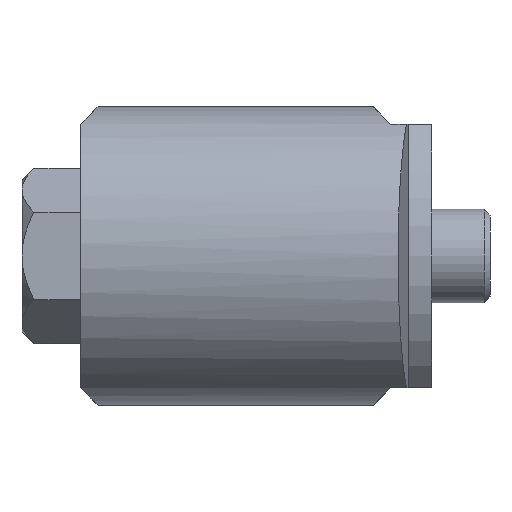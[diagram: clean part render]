
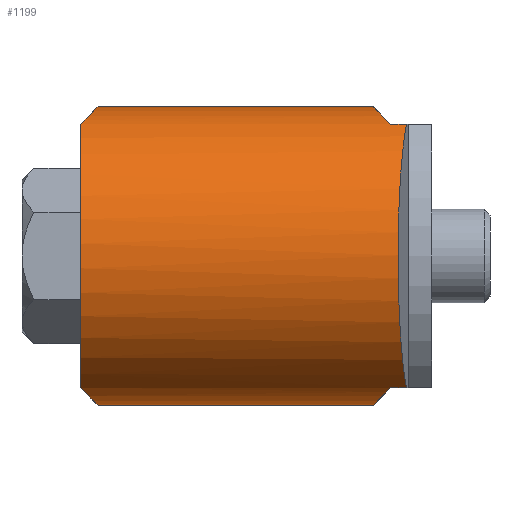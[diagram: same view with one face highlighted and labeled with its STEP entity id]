
A CAD part, left-side view. The second image highlights one B-rep face of the part: STEP entity #1199.
In plain terms, the highlighted cylindrical face has radius 12.75 mm (diameter 25.5 mm), a partial arc.
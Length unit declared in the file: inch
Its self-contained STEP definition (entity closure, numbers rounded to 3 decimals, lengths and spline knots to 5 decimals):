
#36=ELLIPSE('',#1305,0.70989,0.50197);
#37=ELLIPSE('',#1308,0.70989,0.50197);
#38=ELLIPSE('',#1311,0.70989,0.50197);
#39=ELLIPSE('',#1313,0.70989,0.50197);
#40=ELLIPSE('',#1317,0.50473,0.50197);
#69=LINE('',#1885,#134);
#82=LINE('',#1915,#147);
#91=LINE('',#1940,#156);
#92=LINE('',#1942,#157);
#134=VECTOR('',#1510,0.3937);
#147=VECTOR('',#1529,0.3937);
#156=VECTOR('',#1556,0.3937);
#157=VECTOR('',#1559,0.3937);
#196=CYLINDRICAL_SURFACE('',#1318,0.50197);
#230=FACE_OUTER_BOUND('',#303,.T.);
#303=EDGE_LOOP('',(#821,#822,#823,#824,#825,#826,#827,#828,#829,#830));
#388=CIRCLE('',#1319,0.50197);
#471=VERTEX_POINT('',#1875);
#472=VERTEX_POINT('',#1876);
#475=VERTEX_POINT('',#1884);
#480=VERTEX_POINT('',#1896);
#481=VERTEX_POINT('',#1897);
#488=VERTEX_POINT('',#1912);
#489=VERTEX_POINT('',#1914);
#491=VERTEX_POINT('',#1920);
#493=VERTEX_POINT('',#1926);
#494=VERTEX_POINT('',#1927);
#594=EDGE_CURVE('',#471,#472,#36,.T.);
#598=EDGE_CURVE('',#472,#475,#69,.T.);
#604=EDGE_CURVE('',#480,#481,#37,.T.);
#612=EDGE_CURVE('',#489,#488,#82,.T.);
#615=EDGE_CURVE('',#488,#491,#38,.T.);
#618=EDGE_CURVE('',#493,#494,#39,.T.);
#624=EDGE_CURVE('',#475,#489,#40,.T.);
#625=EDGE_CURVE('',#491,#493,#91,.T.);
#626=EDGE_CURVE('',#480,#494,#388,.T.);
#627=EDGE_CURVE('',#471,#481,#92,.T.);
#821=ORIENTED_EDGE('',*,*,#594,.T.);
#822=ORIENTED_EDGE('',*,*,#598,.T.);
#823=ORIENTED_EDGE('',*,*,#624,.T.);
#824=ORIENTED_EDGE('',*,*,#612,.T.);
#825=ORIENTED_EDGE('',*,*,#615,.T.);
#826=ORIENTED_EDGE('',*,*,#625,.T.);
#827=ORIENTED_EDGE('',*,*,#618,.T.);
#828=ORIENTED_EDGE('',*,*,#626,.F.);
#829=ORIENTED_EDGE('',*,*,#604,.T.);
#830=ORIENTED_EDGE('',*,*,#627,.F.);
#1199=ADVANCED_FACE('',(#230),#196,.T.);
#1305=AXIS2_PLACEMENT_3D('',#1877,#1503,#1504);
#1308=AXIS2_PLACEMENT_3D('',#1898,#1518,#1519);
#1311=AXIS2_PLACEMENT_3D('',#1921,#1534,#1535);
#1313=AXIS2_PLACEMENT_3D('',#1928,#1540,#1541);
#1317=AXIS2_PLACEMENT_3D('',#1938,#1552,#1553);
#1318=AXIS2_PLACEMENT_3D('',#1939,#1554,#1555);
#1319=AXIS2_PLACEMENT_3D('',#1941,#1557,#1558);
#1503=DIRECTION('center_axis',(0.,0.707,0.707));
#1504=DIRECTION('ref_axis',(0.,-0.707,0.707));
#1510=DIRECTION('',(0.,-1.,0.));
#1518=DIRECTION('center_axis',(0.,-0.707,0.707));
#1519=DIRECTION('ref_axis',(0.,0.707,0.707));
#1529=DIRECTION('',(0.,1.,0.));
#1534=DIRECTION('center_axis',(0.,0.707,-0.707));
#1535=DIRECTION('ref_axis',(0.,0.707,0.707));
#1540=DIRECTION('center_axis',(0.,-0.707,-0.707));
#1541=DIRECTION('ref_axis',(0.,-0.707,0.707));
#1552=DIRECTION('center_axis',(0.105,0.995,0.));
#1553=DIRECTION('ref_axis',(-0.995,0.105,0.));
#1554=DIRECTION('center_axis',(0.,-1.,0.));
#1555=DIRECTION('ref_axis',(0.,0.,1.));
#1556=DIRECTION('',(0.,1.,0.));
#1557=DIRECTION('center_axis',(0.,1.,0.));
#1558=DIRECTION('ref_axis',(0.,0.,1.));
#1559=DIRECTION('',(0.,1.,0.));
#1875=CARTESIAN_POINT('',(-1.86193,0.66872,-0.02886));
#1876=CARTESIAN_POINT('',(-2.09815,0.60966,0.03019));
#1877=CARTESIAN_POINT('Origin',(-1.86193,0.16675,0.4731));
#1884=CARTESIAN_POINT('',(-2.09815,0.5562,0.03019));
#1885=CARTESIAN_POINT('',(-2.09815,1.65297,0.03019));
#1896=CARTESIAN_POINT('',(-2.09815,1.65297,0.03019));
#1897=CARTESIAN_POINT('',(-1.86193,1.59392,-0.02886));
#1898=CARTESIAN_POINT('Origin',(-1.86193,2.09589,0.4731));
#1912=CARTESIAN_POINT('',(-2.09815,0.60966,0.91602));
#1914=CARTESIAN_POINT('',(-2.09815,0.5562,0.91602));
#1915=CARTESIAN_POINT('',(-2.09815,1.65297,0.91602));
#1920=CARTESIAN_POINT('',(-1.86193,0.66872,0.97507));
#1921=CARTESIAN_POINT('Origin',(-1.86193,0.16675,0.4731));
#1926=CARTESIAN_POINT('',(-1.86193,1.59392,0.97507));
#1927=CARTESIAN_POINT('',(-2.09815,1.65297,0.91602));
#1928=CARTESIAN_POINT('Origin',(-1.86193,2.09589,0.4731));
#1938=CARTESIAN_POINT('Origin',(-1.86193,0.53137,0.4731));
#1939=CARTESIAN_POINT('Origin',(-1.86193,1.65297,0.4731));
#1940=CARTESIAN_POINT('',(-1.86193,1.65297,0.97507));
#1941=CARTESIAN_POINT('Origin',(-1.86193,1.65297,0.4731));
#1942=CARTESIAN_POINT('',(-1.86193,1.65297,-0.02886));
